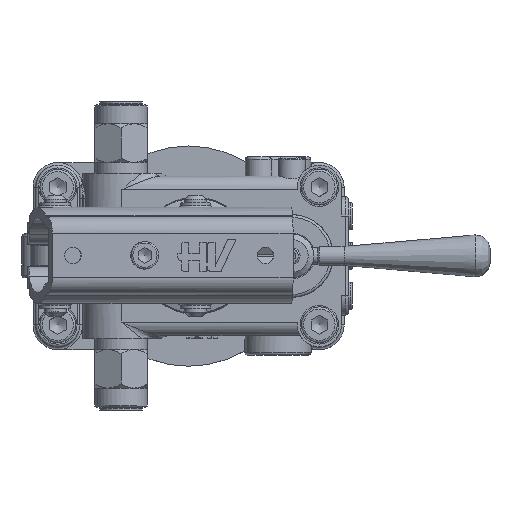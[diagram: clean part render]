
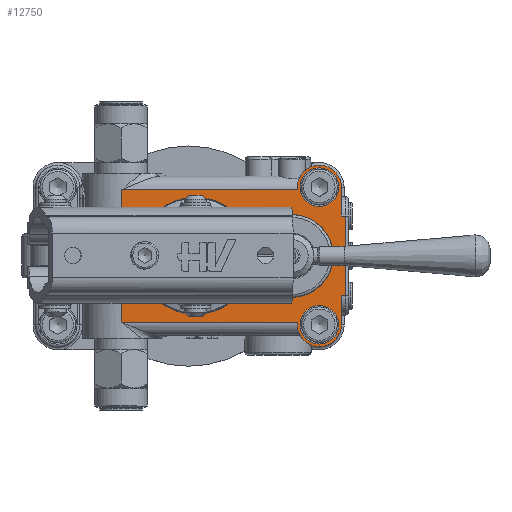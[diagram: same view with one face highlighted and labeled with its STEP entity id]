
A CAD part, top view. The second image highlights one B-rep face of the part: STEP entity #12750.
In plain terms, the highlighted planar face has unit normal (0, 0, 1).
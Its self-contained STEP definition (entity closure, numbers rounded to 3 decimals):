
#11051=CARTESIAN_POINT('',(96.,58.,43.));
#11052=VERTEX_POINT('',#11051);
#11060=CARTESIAN_POINT('',(96.,59.,43.));
#11061=VERTEX_POINT('',#11060);
#11062=CARTESIAN_POINT('',(96.,58.,43.));
#11063=DIRECTION('',(0.0,1.0,0.0));
#11064=VECTOR('',#11063,1.);
#11065=LINE('',#11062,#11064);
#11066=EDGE_CURVE('',#11052,#11061,#11065,.T.);
#11082=CARTESIAN_POINT('',(96.0,10.0,43.));
#11083=VERTEX_POINT('',#11082);
#11093=CARTESIAN_POINT('',(96.0,9.,43.));
#11094=VERTEX_POINT('',#11093);
#11101=CARTESIAN_POINT('',(96.,9.,43.));
#11102=DIRECTION('',(0.0,1.0,0.0));
#11103=VECTOR('',#11102,1.);
#11104=LINE('',#11101,#11103);
#11105=EDGE_CURVE('',#11094,#11083,#11104,.T.);
#11264=CARTESIAN_POINT('',(32.,44.122,43.));
#11265=VERTEX_POINT('',#11264);
#11314=CARTESIAN_POINT('',(33.732,41.0,43.));
#11315=VERTEX_POINT('',#11314);
#11323=CARTESIAN_POINT('',(33.732,41.0,43.));
#11324=CARTESIAN_POINT('',(33.732,41.528,43.));
#11325=CARTESIAN_POINT('',(33.438,42.767,43.));
#11326=CARTESIAN_POINT('',(32.582,43.719,43.));
#11327=CARTESIAN_POINT('',(32.,44.122,43.));
#11328=B_SPLINE_CURVE_WITH_KNOTS('',3,(#11323,#11324,#11325,#11326,#11327),.UNSPECIFIED.,.F.,.U.,(4,1,4),(2.696,2.855,3.066),.UNSPECIFIED.);
#11329=EDGE_CURVE('',#11315,#11265,#11328,.T.);
#11341=CARTESIAN_POINT('',(33.732,27.,43.));
#11342=VERTEX_POINT('',#11341);
#11350=CARTESIAN_POINT('',(33.732,27.,43.));
#11351=DIRECTION('',(0.0,1.0,0.0));
#11352=VECTOR('',#11351,14.);
#11353=LINE('',#11350,#11352);
#11354=EDGE_CURVE('',#11342,#11315,#11353,.T.);
#11387=CARTESIAN_POINT('',(32.,23.878,43.));
#11388=VERTEX_POINT('',#11387);
#11396=CARTESIAN_POINT('',(32.,23.878,43.));
#11397=CARTESIAN_POINT('',(32.433,24.178,43.));
#11398=CARTESIAN_POINT('',(33.336,25.067,43.));
#11399=CARTESIAN_POINT('',(33.732,26.29,43.0));
#11400=CARTESIAN_POINT('',(33.732,27.,43.));
#11401=B_SPLINE_CURVE_WITH_KNOTS('',3,(#11396,#11397,#11398,#11399,#11400),.UNSPECIFIED.,.F.,.U.,(4,1,4),(2.696,2.854,3.065),.UNSPECIFIED.);
#11402=EDGE_CURVE('',#11388,#11342,#11401,.T.);
#12131=CARTESIAN_POINT('',(112.0,59.,43.));
#12132=VERTEX_POINT('',#12131);
#12139=CARTESIAN_POINT('',(112.,48.5,43.));
#12140=VERTEX_POINT('',#12139);
#12141=CARTESIAN_POINT('',(112.0,59.,43.));
#12142=DIRECTION('',(0.0,-1.0,0.0));
#12143=VECTOR('',#12142,10.5);
#12144=LINE('',#12141,#12143);
#12145=EDGE_CURVE('',#12132,#12140,#12144,.T.);
#12260=CARTESIAN_POINT('',(112.0,19.5,43.));
#12261=VERTEX_POINT('',#12260);
#12269=CARTESIAN_POINT('',(112.,9.,43.));
#12270=VERTEX_POINT('',#12269);
#12271=CARTESIAN_POINT('',(112.,19.5,43.));
#12272=DIRECTION('',(0.0,-1.0,0.0));
#12273=VECTOR('',#12272,10.5);
#12274=LINE('',#12271,#12273);
#12275=EDGE_CURVE('',#12261,#12270,#12274,.T.);
#12607=CARTESIAN_POINT('',(113.5,48.5,43.));
#12608=VERTEX_POINT('',#12607);
#12618=CARTESIAN_POINT('',(112.,48.5,43.));
#12619=DIRECTION('',(1.0,0.0,0.0));
#12620=VECTOR('',#12619,1.5);
#12621=LINE('',#12618,#12620);
#12622=EDGE_CURVE('',#12140,#12608,#12621,.T.);
#12627=CARTESIAN_POINT('',(104.,34.,43.));
#12628=DIRECTION('',(0.0,0.0,1.0));
#12629=DIRECTION('',(1.0,0.0,0.0));
#12630=AXIS2_PLACEMENT_3D('',#12627,#12628,#12629);
#12631=PLANE('',#12630);
#12632=CARTESIAN_POINT('',(113.5,19.5,43.));
#12633=VERTEX_POINT('',#12632);
#12634=CARTESIAN_POINT('',(113.5,48.5,43.));
#12635=DIRECTION('',(0.0,-1.0,0.0));
#12636=VECTOR('',#12635,29.);
#12637=LINE('',#12634,#12636);
#12638=EDGE_CURVE('',#12608,#12633,#12637,.T.);
#12639=ORIENTED_EDGE('',*,*,#12638,.F.);
#12640=ORIENTED_EDGE('',*,*,#12622,.F.);
#12641=ORIENTED_EDGE('',*,*,#12145,.F.);
#12642=CARTESIAN_POINT('',(104.,59.,43.));
#12643=DIRECTION('',(0.0,0.0,-1.0));
#12644=DIRECTION('',(1.0,0.0,0.0));
#12645=AXIS2_PLACEMENT_3D('',#12642,#12643,#12644);
#12646=CIRCLE('',#12645,8.0);
#12647=EDGE_CURVE('',#11061,#12132,#12646,.T.);
#12648=ORIENTED_EDGE('',*,*,#12647,.F.);
#12649=ORIENTED_EDGE('',*,*,#11066,.F.);
#12650=CARTESIAN_POINT('',(32.,58.,43.));
#12651=VERTEX_POINT('',#12650);
#12652=CARTESIAN_POINT('',(96.,58.,43.));
#12653=DIRECTION('',(-1.0,0.0,0.0));
#12654=VECTOR('',#12653,64.);
#12655=LINE('',#12652,#12654);
#12656=EDGE_CURVE('',#11052,#12651,#12655,.T.);
#12657=ORIENTED_EDGE('',*,*,#12656,.T.);
#12658=CARTESIAN_POINT('',(32.0,44.122,43.0));
#12659=DIRECTION('',(0.0,1.0,0.0));
#12660=VECTOR('',#12659,13.878);
#12661=LINE('',#12658,#12660);
#12662=EDGE_CURVE('',#11265,#12651,#12661,.T.);
#12663=ORIENTED_EDGE('',*,*,#12662,.F.);
#12664=ORIENTED_EDGE('',*,*,#11329,.F.);
#12665=ORIENTED_EDGE('',*,*,#11354,.F.);
#12666=ORIENTED_EDGE('',*,*,#11402,.F.);
#12667=CARTESIAN_POINT('',(32.,10.0,43.));
#12668=VERTEX_POINT('',#12667);
#12669=CARTESIAN_POINT('',(32.0,10.,43.0));
#12670=DIRECTION('',(0.0,1.0,0.0));
#12671=VECTOR('',#12670,13.878);
#12672=LINE('',#12669,#12671);
#12673=EDGE_CURVE('',#12668,#11388,#12672,.T.);
#12674=ORIENTED_EDGE('',*,*,#12673,.F.);
#12675=CARTESIAN_POINT('',(96.0,10.0,43.));
#12676=DIRECTION('',(-1.0,0.0,0.0));
#12677=VECTOR('',#12676,64.);
#12678=LINE('',#12675,#12677);
#12679=EDGE_CURVE('',#11083,#12668,#12678,.T.);
#12680=ORIENTED_EDGE('',*,*,#12679,.F.);
#12681=ORIENTED_EDGE('',*,*,#11105,.F.);
#12682=CARTESIAN_POINT('',(104.0,9.,43.));
#12683=DIRECTION('',(0.0,0.0,-1.0));
#12684=DIRECTION('',(-1.0,0.0,0.0));
#12685=AXIS2_PLACEMENT_3D('',#12682,#12683,#12684);
#12686=CIRCLE('',#12685,8.0);
#12687=EDGE_CURVE('',#12270,#11094,#12686,.T.);
#12688=ORIENTED_EDGE('',*,*,#12687,.F.);
#12689=ORIENTED_EDGE('',*,*,#12275,.F.);
#12690=CARTESIAN_POINT('',(112.0,19.5,43.));
#12691=DIRECTION('',(1.0,0.0,0.0));
#12692=VECTOR('',#12691,1.5);
#12693=LINE('',#12690,#12692);
#12694=EDGE_CURVE('',#12261,#12633,#12693,.T.);
#12695=ORIENTED_EDGE('',*,*,#12694,.T.);
#12696=EDGE_LOOP('',(#12639,#12640,#12641,#12648,#12649,#12657,#12663,#12664,#12665,#12666,#12674,#12680,#12681,#12688,#12689,#12695));
#12697=FACE_OUTER_BOUND('',#12696,.T.);
#12698=CARTESIAN_POINT('',(73.502,21.722,43.));
#12699=VERTEX_POINT('',#12698);
#12700=CARTESIAN_POINT('',(59.,34.,43.));
#12701=DIRECTION('',(0.,0.,-1.0));
#12702=DIRECTION('',(-0.763,0.646,0.));
#12703=AXIS2_PLACEMENT_3D('',#12700,#12701,#12702);
#12704=CIRCLE('',#12703,19.002);
#12705=EDGE_CURVE('',#12699,#12699,#12704,.T.);
#12706=ORIENTED_EDGE('',*,*,#12705,.T.);
#12707=EDGE_LOOP('',(#12706));
#12708=FACE_BOUND('',#12707,.T.);
#12709=CARTESIAN_POINT('',(111.,59.,43.));
#12710=VERTEX_POINT('',#12709);
#12711=CARTESIAN_POINT('',(104.,59.,43.));
#12712=DIRECTION('',(0.0,0.0,-1.0));
#12713=DIRECTION('',(1.0,0.0,0.0));
#12714=AXIS2_PLACEMENT_3D('',#12711,#12712,#12713);
#12715=CIRCLE('',#12714,7.);
#12716=EDGE_CURVE('',#12710,#12710,#12715,.T.);
#12717=ORIENTED_EDGE('',*,*,#12716,.T.);
#12718=EDGE_LOOP('',(#12717));
#12719=FACE_BOUND('',#12718,.T.);
#12720=CARTESIAN_POINT('',(111.0,9.,43.));
#12721=VERTEX_POINT('',#12720);
#12722=CARTESIAN_POINT('',(104.0,9.,43.));
#12723=DIRECTION('',(0.0,0.0,-1.0));
#12724=DIRECTION('',(1.0,0.0,0.0));
#12725=AXIS2_PLACEMENT_3D('',#12722,#12723,#12724);
#12726=CIRCLE('',#12725,7.);
#12727=EDGE_CURVE('',#12721,#12721,#12726,.T.);
#12728=ORIENTED_EDGE('',*,*,#12727,.T.);
#12729=EDGE_LOOP('',(#12728));
#12730=FACE_BOUND('',#12729,.T.);
#12731=CARTESIAN_POINT('',(83.0,44.198,43.));
#12732=VERTEX_POINT('',#12731);
#12733=CARTESIAN_POINT('',(83.0,23.802,43.));
#12734=VERTEX_POINT('',#12733);
#12735=CARTESIAN_POINT('',(94.,34.0,43.));
#12736=DIRECTION('',(0.0,0.0,-1.0));
#12737=DIRECTION('',(-1.0,0.0,0.0));
#12738=AXIS2_PLACEMENT_3D('',#12735,#12736,#12737);
#12739=CIRCLE('',#12738,15.0);
#12740=EDGE_CURVE('',#12732,#12734,#12739,.T.);
#12741=ORIENTED_EDGE('',*,*,#12740,.T.);
#12742=CARTESIAN_POINT('',(83.0,23.802,43.));
#12743=DIRECTION('',(0.0,1.0,0.0));
#12744=VECTOR('',#12743,20.396);
#12745=LINE('',#12742,#12744);
#12746=EDGE_CURVE('',#12734,#12732,#12745,.T.);
#12747=ORIENTED_EDGE('',*,*,#12746,.T.);
#12748=EDGE_LOOP('',(#12741,#12747));
#12749=FACE_BOUND('',#12748,.T.);
#12750=ADVANCED_FACE('',(#12697,#12708,#12719,#12730,#12749),#12631,.T.);
